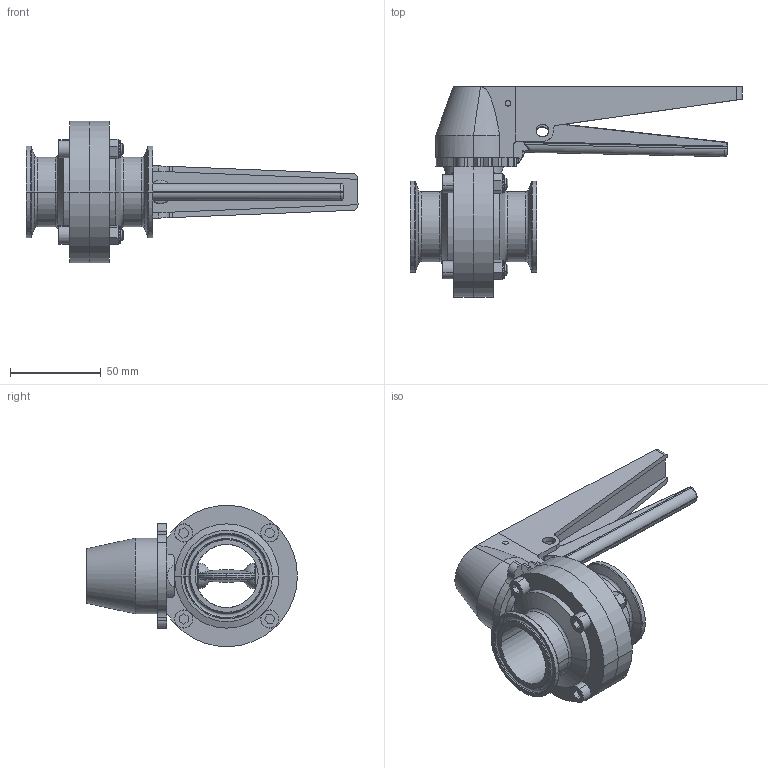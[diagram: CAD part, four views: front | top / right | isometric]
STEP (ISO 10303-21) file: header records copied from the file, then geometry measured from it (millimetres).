
FILE_DESCRIPTION (( 'STEP AP214' ), '1' );
FILE_NAME ('1.5in Sanitary BFV, Clamp Ends, with SS Trigger handle(樓躇).STEP', '2025-03-24T02:54:57', ( '' ), ( '' ), 'SwSTEP 2.0', 'SolidWorks 2023', '' );
FILE_SCHEMA (( 'AUTOMOTIVE_DESIGN' ));
Length unit declared in the file: millimetre
Products named in the file (14): 1-2.5in B5107 蝶阀把手齿轮片 2201G0285; 2201G0025 蝶阀不锈钢把手-固定销; GB／T889．1-20001型非金属嵌件六角锁紧螺母M6; 31013G0051 31013R0004 31012G0050 31012R0004 1.5in B5101 快装蝶阀_VNE加密; 31014R0018 41104R0006 1.5in 蝶片 9.98; 0.5~4in 蝶阀衬套 2606M0001 2606M0002 2606M0003 2606M0004; CME 不锈钢把手1-4 in_大头加密; 2201G0016 蝶阀不锈钢把手-弹簧; 1.5in Sanitary BFV, Clamp Ends, with SS Trigger handle(加密); GB／T70．1-2000内六角圆柱头螺钉M6×30; 不锈钢把手_0.5-2.5in 开启状态; 2601E0083 2601S0084 1.5in 3A 蝶阀密封圈-AVK; 内六角圆柱头螺钉M5X40; 220110003  B5107蝶阀AFV把手杆-03D  5107-HT-5040 CF8
Assembly tree (21 placements, depth 3):
  1.5in Sanitary BFV, Clamp Ends, with SS Trigger handle(加密)
    31013G0051 31013R0004 31012G0050 31012R0004 1.5in B5101 快装蝶阀_VNE加密  x2
    31014R0018 41104R0006 1.5in 蝶片 9.98
    0.5~4in 蝶阀衬套 2606M0001 2606M0002 2606M0003 2606M0004  x2
    2601E0083 2601S0084 1.5in 3A 蝶阀密封圈-AVK
    GB／T70．1-2000内六角圆柱头螺钉M6×30  x4
    GB／T889．1-20001型非金属嵌件六角锁紧螺母M6  x4
    不锈钢把手_0.5-2.5in 开启状态
      1-2.5in B5107 蝶阀把手齿轮片 2201G0285
      CME 不锈钢把手1-4 in_大头加密
      220110003  B5107蝶阀AFV把手杆-03D  5107-HT-5040 CF8
      2201G0016 蝶阀不锈钢把手-弹簧
      2201G0025 蝶阀不锈钢把手-固定销
      内六角圆柱头螺钉M5X40
Bounding box: 183.12 x 116.3 x 77.98 mm (x, y, z)
Volume: 232485.2 mm3; surface area: 91545.1 mm2
Topology: 20 solids, 21 shells, 990 faces, 2414 edges, 1489 vertices
Faces by surface type: plane 361, cylinder 273, bspline 123, cone 102, torus 98, sphere 33
Entity records: 30410 total; most frequent: CARTESIAN_POINT 13022, ORIENTED_EDGE 3688, DIRECTION 3306, EDGE_CURVE 1844, AXIS2_PLACEMENT_3D 1220, VERTEX_POINT 1148, LINE 866, VECTOR 866
